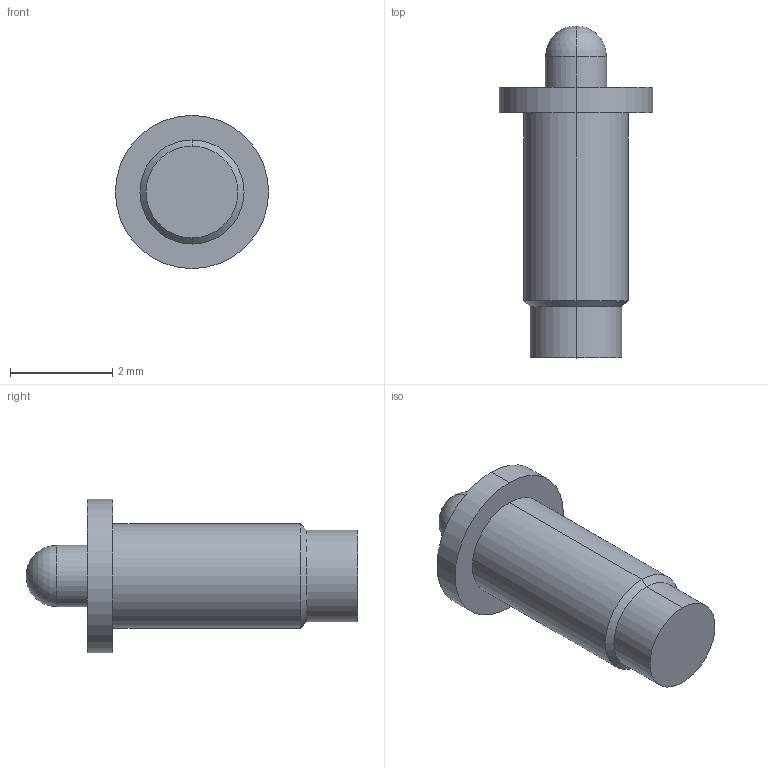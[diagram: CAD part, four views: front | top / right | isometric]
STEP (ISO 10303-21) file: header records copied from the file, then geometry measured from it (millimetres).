
FILE_DESCRIPTION((''),'2;1');
FILE_NAME('NC4035-01','2022-05-18T15:34:03',('Administrator'),(''),'CREO PARAMETRIC BY PTC INC, 2018400','CREO PARAMETRIC BY PTC INC, 2018400','');
FILE_SCHEMA(('CONFIG_CONTROL_DESIGN'));
Length unit declared in the file: millimetre
Products named in the file (1): NC4035-01
Bounding box: 3 x 6.5 x 3 mm (x, y, z)
Volume: 19.6 mm3; surface area: 51.8 mm2
Topology: 1 solids, 1 shells, 15 faces, 30 edges, 17 vertices
Faces by surface type: cylinder 8, plane 3, sphere 2, cone 2
Entity records: 418 total; most frequent: DIRECTION 76, CARTESIAN_POINT 60, ORIENTED_EDGE 56, AXIS2_PLACEMENT_3D 33, EDGE_CURVE 28, CIRCLE 18, VERTEX_POINT 17, EDGE_LOOP 17
